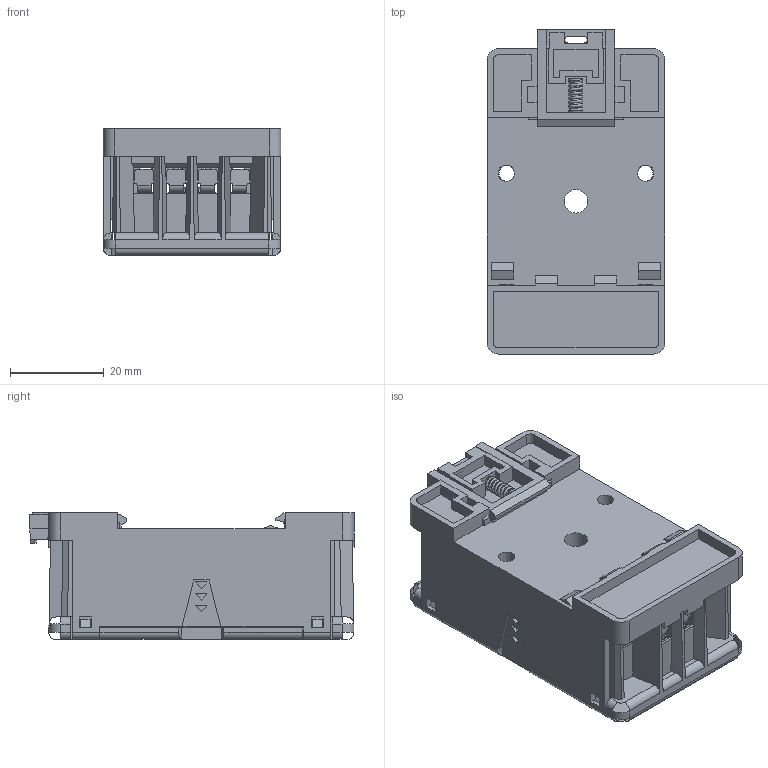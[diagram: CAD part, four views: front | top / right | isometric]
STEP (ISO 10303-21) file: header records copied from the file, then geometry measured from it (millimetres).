
FILE_DESCRIPTION((''),'2; 1');
FILE_NAME('','2026-03-27T11:08:35',(''),(''),'CST STEP Exporter V1.0','Unknown','');
FILE_SCHEMA(('CONFIG_CONTROL_DESIGN'));
Length unit declared in the file: metre
Assembly tree (68 placements, depth 2):
  (unnamed)
    (unnamed)
    (unnamed)
    (unnamed)
    (unnamed)
    (unnamed)
    (unnamed)
    (unnamed)
    (unnamed)
    (unnamed)
    (unnamed)
    (unnamed)
    (unnamed)
    (unnamed)
    (unnamed)
    (unnamed)
    (unnamed)
    (unnamed)
    (unnamed)
    (unnamed)
    (unnamed)
    (unnamed)
    (unnamed)
    (unnamed)
    (unnamed)
    (unnamed)
    (unnamed)
    (unnamed)
    (unnamed)
    (unnamed)
    (unnamed)
    (unnamed)
    (unnamed)
    (unnamed)
    (unnamed)
    (unnamed)
    (unnamed)
    (unnamed)
    (unnamed)
    (unnamed)
    (unnamed)
    (unnamed)
    (unnamed)
    (unnamed)
    (unnamed)
    (unnamed)
    (unnamed)
    (unnamed)
    (unnamed)
    (unnamed)
    (unnamed)
    (unnamed)
    (unnamed)
    (unnamed)
    (unnamed)
    (unnamed)
    (unnamed)
    (unnamed)
    (unnamed)
    (unnamed)
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Bounding box: 38 x 69.2 x 27.1 mm (x, y, z)
Surface area: 45280.6 mm2 (no closed solid volume)
Topology: 0 solids, 68 shells, 567 faces, 2330 edges, 1804 vertices
Faces by surface type: plane 439, cylinder 91, torus 20, cone 14, bspline 3
Full cylindrical faces by diameter (mm): 2 x1, 3 x8, 3.4 x2, 3.5 x2, 4.4 x8, 5 x1, 5.5 x8
Entity records: 30101 total; most frequent: CARTESIAN_POINT 5940, DIRECTION 3737, ORIENTED_EDGE 3322, EDGE_CURVE 2261, VERTEX_POINT 1777, VECTOR 1741, LINE 1741, AXIS2_PLACEMENT_3D 998
